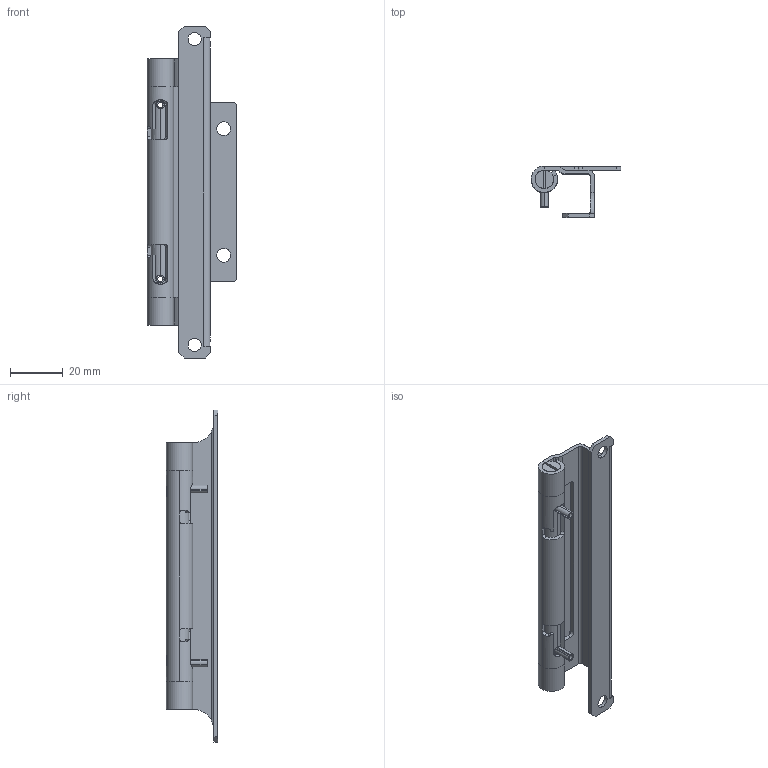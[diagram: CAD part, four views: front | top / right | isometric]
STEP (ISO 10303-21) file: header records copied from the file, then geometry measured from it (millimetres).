
FILE_DESCRIPTION (( 'STEP AP203' ), '1' );
FILE_NAME ('SK2-036-2.STEP', '2019-04-03T01:55:50', ( 'admin' ), ( 'Microsoft' ), 'SwSTEP 2.0', 'SolidWorks 2018', '' );
FILE_SCHEMA (( 'CONFIG_CONTROL_DESIGN' ));
Length unit declared in the file: millimetre
Products named in the file (5): SK2-036-2; SK2-036-2-F1; SK2-036-2-F2; SK2-036-2-F3; SK2-036-2-F4
Assembly tree (6 placements, depth 2):
  SK2-036-2
    SK2-036-2-F1
    SK2-036-2-F2
    SK2-036-2-F3  x2
    SK2-036-2-F4  x2
Bounding box: 34 x 19.5 x 126 mm (x, y, z)
Volume: 14331.8 mm3; surface area: 19253.9 mm2
Topology: 6 solids, 6 shells, 174 faces, 468 edges, 294 vertices
Faces by surface type: plane 100, cylinder 70, bspline 4
Entity records: 6097 total; most frequent: CARTESIAN_POINT 1601, ORIENTED_EDGE 836, DIRECTION 818, EDGE_CURVE 418, AXIS2_PLACEMENT_3D 277, VECTOR 264, LINE 264, VERTEX_POINT 262
